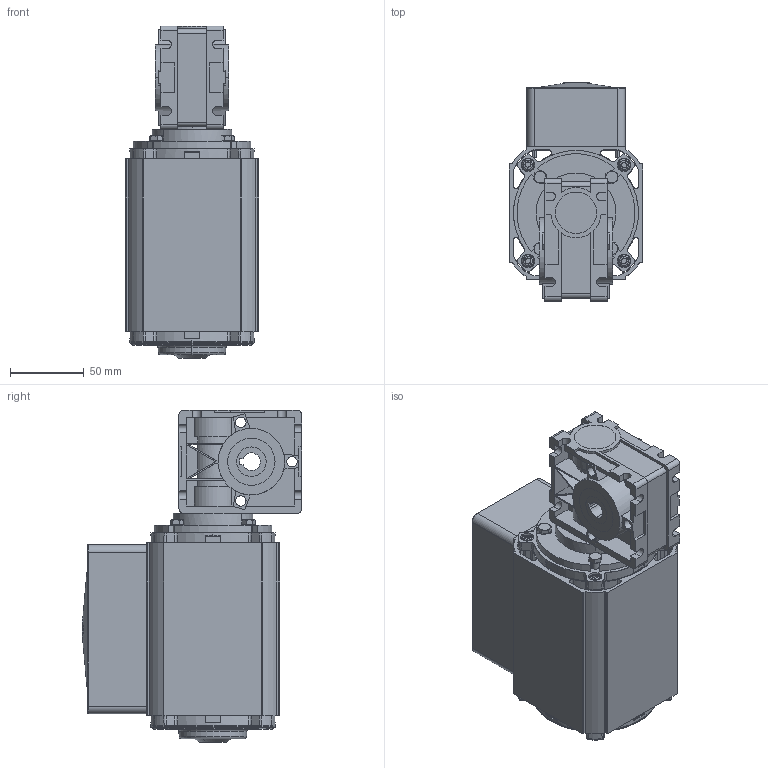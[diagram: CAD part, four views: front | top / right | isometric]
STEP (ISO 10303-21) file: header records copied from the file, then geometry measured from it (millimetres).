
FILE_DESCRIPTION (( 'STEP AP203' ), '1' );
FILE_NAME ('AC8040NV-RA2600T.STEP', '2008-06-30T20:22:39', ( 'eng-rjs' ), ( 'groschopp' ), 'SwSTEP 2.0', 'SolidWorks 2008', '' );
FILE_SCHEMA (( 'CONFIG_CONTROL_DESIGN' ));
Length unit declared in the file: inch
Products named in the file (1): AC8040NV-RA2600T
Bounding box: 90.25 x 148.37 x 224.73 mm (x, y, z)
Surface area: 185744.9 mm2 (no closed solid volume)
Topology: 0 solids, 50 shells, 1054 faces, 3386 edges, 2306 vertices
Faces by surface type: plane 481, cylinder 321, cone 89, bspline 86, torus 61, sphere 16
Entity records: 42169 total; most frequent: CARTESIAN_POINT 13235, DIRECTION 5895, ORIENTED_EDGE 5842, EDGE_CURVE 3386, VERTEX_POINT 2306, AXIS2_PLACEMENT_3D 2181, LINE 1533, VECTOR 1533
